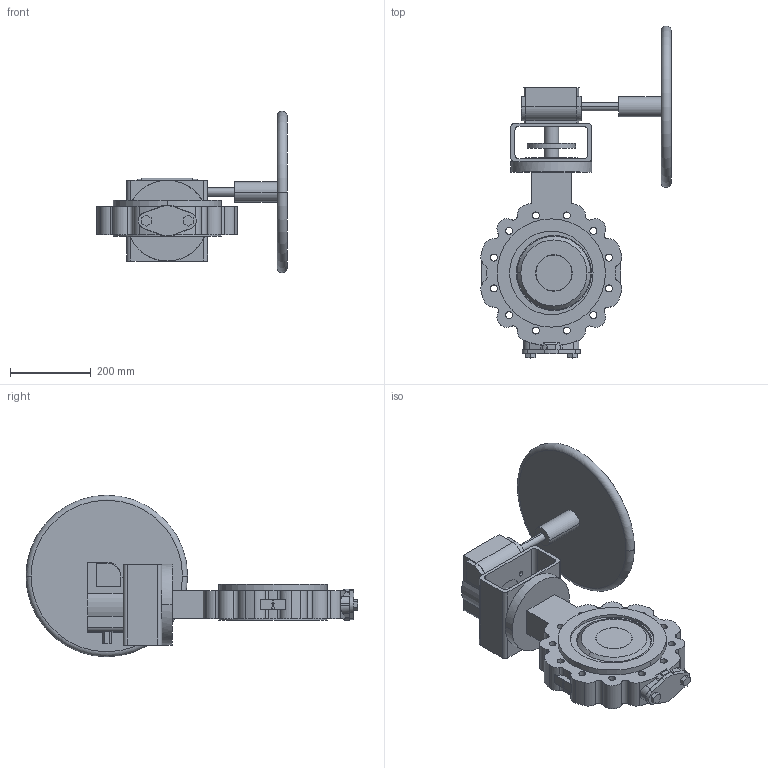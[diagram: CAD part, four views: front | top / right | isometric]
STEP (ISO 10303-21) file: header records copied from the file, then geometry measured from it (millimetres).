
FILE_DESCRIPTION(('Creo Elements/Direct Modeling STEP Export'),'2;1');
FILE_NAME('c000006432.stp','2023-04-17T 7:22:38',(''),(''),'Creo Elements/Direct Modeling STEP processor for AP214 (Solid Model)','Creo Elements/Direct Modeling 19.0F 14-Feb-2017 (C) Parametric Technology GmbH','');
FILE_SCHEMA(('AUTOMOTIVE_DESIGN { 1 0 10303 214 1 1 1 1 }'));
Length unit declared in the file: millimetre
Products named in the file (2): 1; 2
Bounding box: 471.69 x 821.9 x 400 mm (x, y, z)
Volume: 13786584 mm3; surface area: 1117020.8 mm2
Topology: 2 solids, 2 shells, 321 faces, 866 edges, 573 vertices
Faces by surface type: cylinder 173, plane 140, cone 4, sphere 2, torus 2
Entity records: 10599 total; most frequent: CARTESIAN_POINT 2266, ORIENTED_EDGE 1732, DIRECTION 1714, EDGE_CURVE 866, AXIS2_PLACEMENT_3D 633, VERTEX_POINT 573, VECTOR 448, LINE 448
